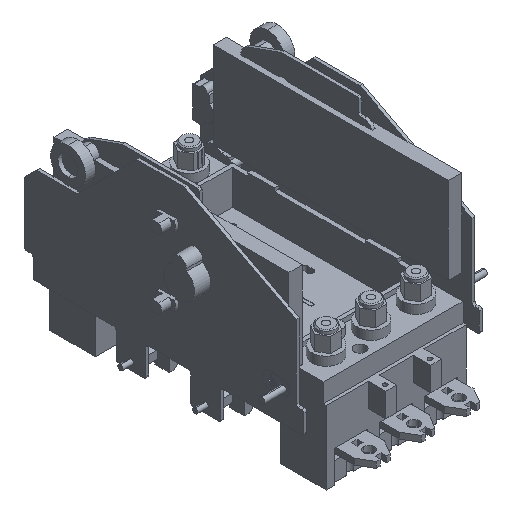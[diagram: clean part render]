
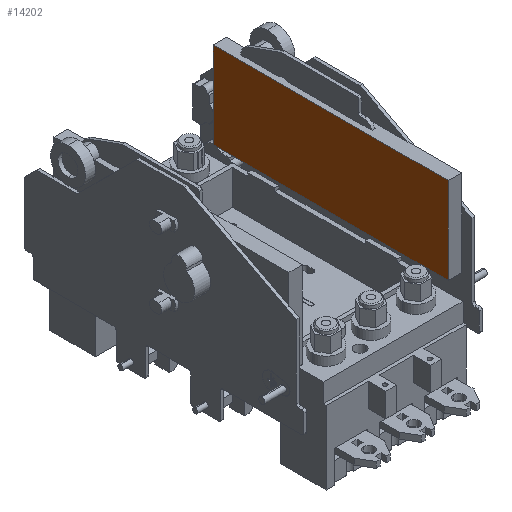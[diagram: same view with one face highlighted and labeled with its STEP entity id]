
A CAD part, isometric view. The second image highlights one B-rep face of the part: STEP entity #14202.
In plain terms, the highlighted planar face has unit normal (-1, 0, 0).
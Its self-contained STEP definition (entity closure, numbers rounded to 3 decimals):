
#572 = CARTESIAN_POINT ( 'NONE',  ( 73., -117.6, 86.117 ) ) ;
#585 = VECTOR ( 'NONE', #25721, 1000. ) ;
#1120 = ORIENTED_EDGE ( 'NONE', *, *, #3659, .F. ) ;
#1546 = CARTESIAN_POINT ( 'NONE',  ( 73., -117.6, -0.483 ) ) ;
#2736 = AXIS2_PLACEMENT_3D ( 'NONE', #15984, #8215, #6190 ) ;
#3659 = EDGE_CURVE ( 'NONE', #7354, #18069, #11417, .T. ) ;
#5325 = FACE_OUTER_BOUND ( 'NONE', #10463, .T. ) ;
#5508 = CARTESIAN_POINT ( 'NONE',  ( 73., -117.6, -0.483 ) ) ;
#5648 = VECTOR ( 'NONE', #7613, 1000. ) ;
#6190 = DIRECTION ( 'NONE',  ( 0., 0., -1. ) ) ;
#7354 = VERTEX_POINT ( 'NONE', #25886 ) ;
#7566 = ORIENTED_EDGE ( 'NONE', *, *, #17603, .F. ) ;
#7613 = DIRECTION ( 'NONE',  ( 0., 0., 1. ) ) ;
#7704 = CARTESIAN_POINT ( 'NONE',  ( 73., 117.6, -0.483 ) ) ;
#8170 = LINE ( 'NONE', #19215, #5648 ) ;
#8215 = DIRECTION ( 'NONE',  ( 1., 0., 0. ) ) ;
#10463 = EDGE_LOOP ( 'NONE', ( #7566, #1120, #21632, #11403 ) ) ;
#11403 = ORIENTED_EDGE ( 'NONE', *, *, #21915, .F. ) ;
#11417 = LINE ( 'NONE', #20207, #585 ) ;
#14202 = ADVANCED_FACE ( 'NONE', ( #5325 ), #22327, .F. ) ;
#14818 = DIRECTION ( 'NONE',  ( 0., 0., -1. ) ) ;
#15214 = CARTESIAN_POINT ( 'NONE',  ( 73., -117.6, 86.117 ) ) ;
#15984 = CARTESIAN_POINT ( 'NONE',  ( 73., 0., 0. ) ) ;
#16396 = VECTOR ( 'NONE', #14818, 1000. ) ;
#16688 = VECTOR ( 'NONE', #23614, 1000. ) ;
#17603 = EDGE_CURVE ( 'NONE', #18069, #18787, #19287, .T. ) ;
#18069 = VERTEX_POINT ( 'NONE', #15214 ) ;
#18705 = EDGE_CURVE ( 'NONE', #26499, #7354, #8170, .T. ) ;
#18787 = VERTEX_POINT ( 'NONE', #1546 ) ;
#19215 = CARTESIAN_POINT ( 'NONE',  ( 73., 117.6, -0.483 ) ) ;
#19287 = LINE ( 'NONE', #572, #16396 ) ;
#20207 = CARTESIAN_POINT ( 'NONE',  ( 73., 117.6, 86.117 ) ) ;
#21632 = ORIENTED_EDGE ( 'NONE', *, *, #18705, .F. ) ;
#21915 = EDGE_CURVE ( 'NONE', #18787, #26499, #23437, .T. ) ;
#22327 = PLANE ( 'NONE',  #2736 ) ;
#23437 = LINE ( 'NONE', #5508, #16688 ) ;
#23614 = DIRECTION ( 'NONE',  ( 0., 1., 0. ) ) ;
#25721 = DIRECTION ( 'NONE',  ( 0., -1., 0. ) ) ;
#25886 = CARTESIAN_POINT ( 'NONE',  ( 73., 117.6, 86.117 ) ) ;
#26499 = VERTEX_POINT ( 'NONE', #7704 ) ;
